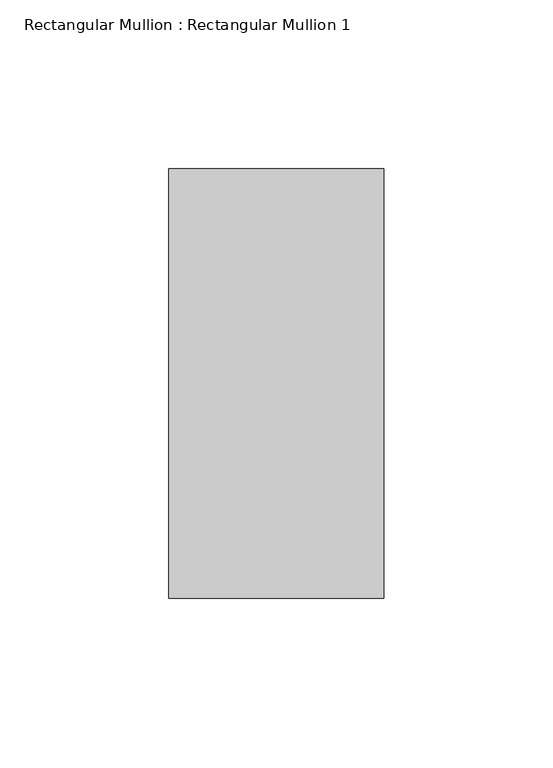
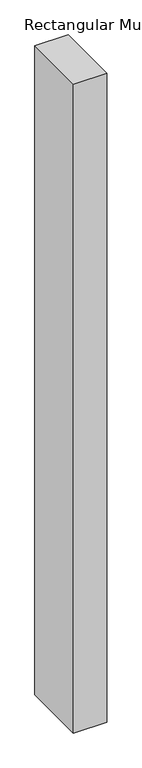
"""IFC4 building model written with IfcOpenShell, lengths in millimetres: member geometry, Rectangular Mullion : Rectangular Mullion 1."""

import ifcopenshell
import ifcopenshell.guid

model = None  # the IFC model being written
_history = None  # IfcOwnerHistory: only IFC2X3 demands one
_inside = {}  # id of a spatial element -> (the spatial element, [elements in it])
_under = {}  # id of a project, library or spatial element -> (it, [spatial elements below it])
_declared = {}  # id of a project -> (the project, [libraries it declares])
_typed = {}  # id of a type object -> (the type object, [elements of that type])
_made_of = {}  # id of a material, layer set ... -> (it, [elements and type objects made of it])


def new_model(schema):
    """Start an empty IFC model of exactly this schema.

    Asked for "IFC4X3", IfcOpenShell would pick the latest addendum, in which some entities
    have other attributes; the version numbers below select the first issue.
    IFC2X3 requires an IfcOwnerHistory on every rooted entity: one is made here for all.
    """
    global model, _history
    if schema == "IFC4X3":
        model = ifcopenshell.file(schema_version=(4, 3, 0, 0))
    else:
        model = ifcopenshell.file(schema=schema)
    _inside.clear()
    _under.clear()
    _declared.clear()
    _typed.clear()
    _made_of.clear()
    _history = None
    if model.schema == "IFC2X3":
        org = make("IfcOrganization", Name="unknown")
        user = make(
            "IfcPersonAndOrganization",
            ThePerson=make("IfcPerson", FamilyName="unknown"),
            TheOrganization=org,
        )
        app = make(
            "IfcApplication",
            ApplicationDeveloper=org,
            Version="unknown",
            ApplicationFullName="unknown",
            ApplicationIdentifier="unknown",
        )
        _history = make(
            "IfcOwnerHistory",
            OwningUser=user,
            OwningApplication=app,
            ChangeAction="ADDED",
            CreationDate=0,
        )
    return model


def make(cls, **values):
    """One entity of the class cls with the attributes given. An attribute that is None is left unset."""
    return model.create_entity(
        cls, **{name: value for name, value in values.items() if value is not None}
    )


def rooted(cls, **values):
    """An entity with a GlobalId (a new one), such as an element, a storey or a relation."""
    return make(cls, GlobalId=ifcopenshell.guid.new(), OwnerHistory=_history, **values)


def si_unit(unit_type, name, prefix=None):
    """IfcSIUnit, for example si_unit("LENGTHUNIT", "METRE", prefix="MILLI")."""
    return make("IfcSIUnit", UnitType=unit_type, Prefix=prefix, Name=name)


def assignment(units):
    """IfcUnitAssignment: the units of a project."""
    return None if units is None else make("IfcUnitAssignment", Units=units)


def point(xyz):
    """IfcCartesianPoint."""
    return None if xyz is None else make("IfcCartesianPoint", Coordinates=xyz)


def direction(xyz):
    """IfcDirection."""
    return None if xyz is None else make("IfcDirection", DirectionRatios=xyz)


def frame(location, z_axis=None, x_axis=None):
    """IfcAxis2Placement3D, a coordinate frame: its origin and axes. An axis left out is left unset."""
    return make(
        "IfcAxis2Placement3D",
        Location=point(location),
        Axis=direction(z_axis),
        RefDirection=direction(x_axis),
    )


def origin():
    """The frame at (0, 0, 0) with its axes left unset."""
    return frame((0.0, 0.0, 0.0))


def place(relative_to, where):
    """IfcLocalPlacement: puts the frame where relative to a parent placement (None: the world)."""
    return make(
        "IfcLocalPlacement", PlacementRelTo=relative_to, RelativePlacement=where
    )


def context(
    kind, dimensions, precision=None, world=None, true_north=None, identifier=None
):
    """IfcGeometricRepresentationContext, for example the 3D "Model" context."""
    return make(
        "IfcGeometricRepresentationContext",
        ContextIdentifier=identifier,
        ContextType=kind,
        CoordinateSpaceDimension=dimensions,
        Precision=precision,
        WorldCoordinateSystem=world,
        TrueNorth=true_north,
    )


def project(units=None, contexts=None):
    """IfcProject with its units and contexts."""
    return rooted(
        "IfcProject",
        Name="project",
        RepresentationContexts=contexts,
        UnitsInContext=assignment(units),
    )


def spatial(cls, under=None, at=None, **own):
    """A site, building, storey or space (cls), placed at a placement, below another one or the project."""
    s = rooted(cls, ObjectPlacement=at, **own)
    if under is not None:
        _under.setdefault(under.id(), (under, []))[1].append(s)
    return s


def polyline(points):
    """IfcPolyline through the points."""
    return make("IfcPolyline", Points=[point(p) for p in points])


def outline(outer, holes=None, kind="AREA"):
    """IfcArbitraryClosedProfileDef: a profile drawn as a closed curve; with holes, ...WithVoids."""
    if holes is None:
        return make("IfcArbitraryClosedProfileDef", ProfileType=kind, OuterCurve=outer)
    return make(
        "IfcArbitraryProfileDefWithVoids",
        ProfileType=kind,
        OuterCurve=outer,
        InnerCurves=holes,
    )


def extrude(swept, where, along, depth):
    """IfcExtrudedAreaSolid: the profile swept, set in the frame where, extruded along a direction by depth."""
    return make(
        "IfcExtrudedAreaSolid",
        SweptArea=swept,
        Position=where,
        ExtrudedDirection=direction(along),
        Depth=depth,
    )


def shape(context_of_items, identifier, shape_type, items):
    """IfcShapeRepresentation: the items that make up one representation, for example the "Body"."""
    return make(
        "IfcShapeRepresentation",
        ContextOfItems=context_of_items,
        RepresentationIdentifier=identifier,
        RepresentationType=shape_type,
        Items=items,
    )


def source(mapping_origin, context_of_items, identifier, shape_type, items):
    """IfcRepresentationMap: a shape defined once, which mapped items show again and again."""
    return make(
        "IfcRepresentationMap",
        MappingOrigin=mapping_origin,
        MappedRepresentation=shape(context_of_items, identifier, shape_type, items),
    )


def transform(
    local_origin,
    x_axis=None,
    y_axis=None,
    z_axis=None,
    scale=None,
    scale2=None,
    scale3=None,
    uniform=True,
):
    """IfcCartesianTransformationOperator3D, or its non-uniform kind. x_axis, y_axis, z_axis: its Axis1, 2, 3."""
    if uniform:
        return make(
            "IfcCartesianTransformationOperator3D",
            Axis1=direction(x_axis),
            Axis2=direction(y_axis),
            LocalOrigin=point(local_origin),
            Scale=scale,
            Axis3=direction(z_axis),
        )
    return make(
        "IfcCartesianTransformationOperator3DnonUniform",
        Axis1=direction(x_axis),
        Axis2=direction(y_axis),
        LocalOrigin=point(local_origin),
        Scale=scale,
        Axis3=direction(z_axis),
        Scale2=scale2,
        Scale3=scale3,
    )


def mapped(mapping_source, mapping_target):
    """IfcMappedItem: shows the shape of a source again, moved by a transform."""
    return make(
        "IfcMappedItem", MappingSource=mapping_source, MappingTarget=mapping_target
    )


def made_of(thing, what):
    """Note that an element or type object is made of a material, layer set ...; save() writes the relation."""
    if what is not None:
        _made_of.setdefault(what.id(), (what, []))[1].append(thing)
    return thing


def element(
    cls,
    number,
    at=None,
    inside=None,
    cuts=None,
    type_object=None,
    material=None,
    context=None,
    identifier="Body",
    shape_type=None,
    held_by="IfcProductDefinitionShape",
    body=None,
    shapes=None,
    **own,
):
    """One element of the class cls, such as IfcWall. Its Tag is "e" and its number.

    at: its placement. inside: the storey or other place that contains it. cuts: it is an
    opening in that element (IfcRelVoidsElement). A single representation is given by context,
    identifier, shape_type and body (its items); several are given by shapes. held_by: the class
    of the entity that holds the representations. save() writes the other relations.
    """
    e = rooted(cls, Tag="e%d" % number, ObjectPlacement=at, **own)
    if body is not None:
        shapes = [shape(context, identifier, shape_type, body)]
    if shapes is not None:
        e.Representation = make(held_by, Representations=shapes)
    if inside is not None:
        _inside.setdefault(inside.id(), (inside, []))[1].append(e)
    if cuts is not None:
        rooted(
            "IfcRelVoidsElement", RelatingBuildingElement=cuts, RelatedOpeningElement=e
        )
    if type_object is not None:
        _typed.setdefault(type_object.id(), (type_object, []))[1].append(e)
    return made_of(e, material)


def aggregate(whole, parts):
    """IfcRelAggregates: a whole, such as a stair, and the parts it consists of."""
    return rooted("IfcRelAggregates", RelatingObject=whole, RelatedObjects=parts)


def save(model, path):
    """Write the relations noted so far, then the file.

    IfcRelAggregates (storeys below a building ...), IfcRelContainedInSpatialStructure (elements
    in a storey), IfcRelDefinesByType, IfcRelAssociatesMaterial and IfcRelDeclares: one each for
    every whole, place, type object, material and project.
    """
    for whole, parts in _under.values():
        aggregate(whole, parts)
    for where, things in _inside.values():
        rooted(
            "IfcRelContainedInSpatialStructure",
            RelatedElements=things,
            RelatingStructure=where,
        )
    for kind, things in _typed.values():
        rooted("IfcRelDefinesByType", RelatedObjects=things, RelatingType=kind)
    for what, things in _made_of.values():
        rooted("IfcRelAssociatesMaterial", RelatedObjects=things, RelatingMaterial=what)
    for by, libraries in _declared.values():
        rooted("IfcRelDeclares", RelatingContext=by, RelatedDefinitions=libraries)
    model.write(path)


def rectangular_mullion_rectangular_mullion_1_63176f19(model_context):
    return source(origin(), model_context, "Body", "SweptSolid", [
        extrude(outline(polyline([(0.0, 63.5), (0.0, -63.5), (-63.5, -63.5), (-63.5, 63.5), (0.0, 63.5)])), frame((0.0, 0.0, -1304.7500001), z_axis=(0.0, 0.0, 1.0), x_axis=(1.0, 0.0, 0.0)), (0.0, 0.0, 1.0), 1304.7500001),
    ])


if __name__ == "__main__":
    model = new_model("IFC4")
    model_context = context("Model", 3, world=origin())
    ifc_project = project(units=[si_unit("LENGTHUNIT", "METRE", prefix="MILLI")], contexts=[model_context])
    site = spatial("IfcSite", under=ifc_project)
    building = spatial("IfcBuilding", under=site)
    placement = place(None, origin())
    rectangular_mullion_rectangular_mullion_1_shape = rectangular_mullion_rectangular_mullion_1_63176f19(model_context)
    element("IfcMember", 1, ObjectType="Rectangular Mullion : Rectangular Mullion 1", at=placement, inside=building, context=model_context, shape_type="MappedRepresentation", body=[
        mapped(rectangular_mullion_rectangular_mullion_1_shape, transform((0.0, 0.0, 0.0), x_axis=(1.0, 0.0, 0.0), y_axis=(0.0, 1.0, 0.0), z_axis=(0.0, 0.0, 1.0))),
    ])
    save(model, "model.ifc")
